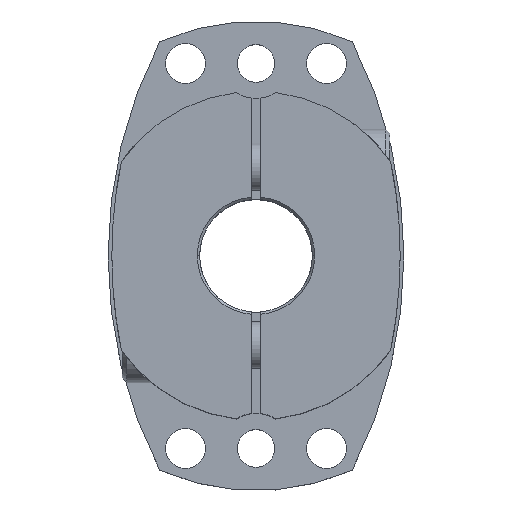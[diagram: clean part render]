
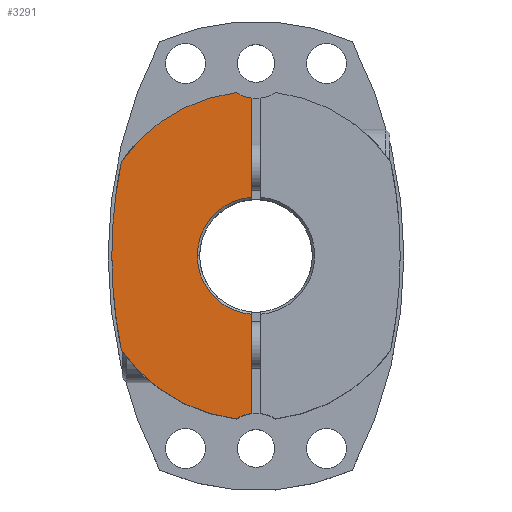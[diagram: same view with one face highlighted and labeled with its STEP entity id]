
A CAD part, top view. The second image highlights one B-rep face of the part: STEP entity #3291.
In plain terms, the highlighted planar face has unit normal (0, 0, 1).
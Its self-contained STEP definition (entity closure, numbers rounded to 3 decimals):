
#227=CARTESIAN_POINT('',(-12.5,0.,31.0));
#228=VERTEX_POINT('',#227);
#244=CARTESIAN_POINT('',(-1.0,12.46,31.0));
#245=VERTEX_POINT('',#244);
#259=CARTESIAN_POINT('',(0.0,0.0,31.0));
#260=DIRECTION('',(0.0,0.0,1.0));
#261=DIRECTION('',(-1.0,0.0,0.0));
#262=AXIS2_PLACEMENT_3D('',#259,#260,#261);
#263=CIRCLE('',#262,12.5);
#264=EDGE_CURVE('',#245,#228,#263,.T.);
#942=CARTESIAN_POINT('',(-30.7,0.,31.0));
#943=VERTEX_POINT('',#942);
#952=CARTESIAN_POINT('',(-28.638,20.121,31.0));
#953=VERTEX_POINT('',#952);
#954=CARTESIAN_POINT('',(68.5,0.,31.0));
#955=DIRECTION('',(0.0,0.0,-1.0));
#956=DIRECTION('',(1.0,0.0,0.0));
#957=AXIS2_PLACEMENT_3D('',#954,#955,#956);
#958=CIRCLE('',#957,99.2);
#959=EDGE_CURVE('',#943,#953,#958,.T.);
#2290=CARTESIAN_POINT('',(-28.638,-20.121,31.0));
#2291=VERTEX_POINT('',#2290);
#2298=CARTESIAN_POINT('',(68.5,0.,31.0));
#2299=DIRECTION('',(0.0,0.0,-1.0));
#2300=DIRECTION('',(1.0,0.0,0.0));
#2301=AXIS2_PLACEMENT_3D('',#2298,#2299,#2300);
#2302=CIRCLE('',#2301,99.2);
#2303=EDGE_CURVE('',#2291,#943,#2302,.T.);
#2593=CARTESIAN_POINT('',(-4.15,34.753,31.0));
#2594=VERTEX_POINT('',#2593);
#2595=CARTESIAN_POINT('',(0.,0.,31.0));
#2596=DIRECTION('',(0.0,0.0,-1.0));
#2597=DIRECTION('',(1.0,0.0,0.0));
#2598=AXIS2_PLACEMENT_3D('',#2595,#2596,#2597);
#2599=CIRCLE('',#2598,35.);
#2600=EDGE_CURVE('',#953,#2594,#2599,.T.);
#2936=CARTESIAN_POINT('',(-1.0,-12.46,31.0));
#2937=VERTEX_POINT('',#2936);
#2938=CARTESIAN_POINT('',(0.0,0.0,31.0));
#2939=DIRECTION('',(0.0,0.0,1.0));
#2940=DIRECTION('',(-1.0,0.0,0.0));
#2941=AXIS2_PLACEMENT_3D('',#2938,#2939,#2940);
#2942=CIRCLE('',#2941,12.5);
#2943=EDGE_CURVE('',#228,#2937,#2942,.T.);
#2968=CARTESIAN_POINT('',(-1.0,-33.567,31.0));
#2969=VERTEX_POINT('',#2968);
#2970=CARTESIAN_POINT('',(-1.0,-33.567,31.0));
#2971=DIRECTION('',(0.0,1.0,0.0));
#2972=VECTOR('',#2971,21.107);
#2973=LINE('',#2970,#2972);
#2974=EDGE_CURVE('',#2969,#2937,#2973,.T.);
#3049=CARTESIAN_POINT('',(-1.0,33.567,31.0));
#3050=VERTEX_POINT('',#3049);
#3057=CARTESIAN_POINT('',(-1.0,12.46,31.0));
#3058=DIRECTION('',(0.0,1.0,0.0));
#3059=VECTOR('',#3058,21.107);
#3060=LINE('',#3057,#3059);
#3061=EDGE_CURVE('',#245,#3050,#3060,.T.);
#3126=CARTESIAN_POINT('',(-4.15,-34.753,31.0));
#3127=VERTEX_POINT('',#3126);
#3128=CARTESIAN_POINT('',(0.,-41.,31.0));
#3129=DIRECTION('',(0.0,0.0,-1.0));
#3130=DIRECTION('',(1.0,0.0,0.0));
#3131=AXIS2_PLACEMENT_3D('',#3128,#3129,#3130);
#3132=CIRCLE('',#3131,7.5);
#3133=EDGE_CURVE('',#3127,#2969,#3132,.T.);
#3262=CARTESIAN_POINT('',(0.,0.,31.0));
#3263=DIRECTION('',(0.0,0.0,1.0));
#3264=DIRECTION('',(1.0,0.0,0.0));
#3265=AXIS2_PLACEMENT_3D('',#3262,#3263,#3264);
#3266=PLANE('',#3265);
#3267=ORIENTED_EDGE('',*,*,#264,.F.);
#3268=ORIENTED_EDGE('',*,*,#3061,.T.);
#3269=CARTESIAN_POINT('',(0.,41.,31.0));
#3270=DIRECTION('',(0.0,0.0,-1.0));
#3271=DIRECTION('',(1.0,0.0,0.0));
#3272=AXIS2_PLACEMENT_3D('',#3269,#3270,#3271);
#3273=CIRCLE('',#3272,7.5);
#3274=EDGE_CURVE('',#3050,#2594,#3273,.T.);
#3275=ORIENTED_EDGE('',*,*,#3274,.T.);
#3276=ORIENTED_EDGE('',*,*,#2600,.F.);
#3277=ORIENTED_EDGE('',*,*,#959,.F.);
#3278=ORIENTED_EDGE('',*,*,#2303,.F.);
#3279=CARTESIAN_POINT('',(0.,0.,31.0));
#3280=DIRECTION('',(0.0,0.0,-1.0));
#3281=DIRECTION('',(1.0,0.0,0.0));
#3282=AXIS2_PLACEMENT_3D('',#3279,#3280,#3281);
#3283=CIRCLE('',#3282,35.);
#3284=EDGE_CURVE('',#3127,#2291,#3283,.T.);
#3285=ORIENTED_EDGE('',*,*,#3284,.F.);
#3286=ORIENTED_EDGE('',*,*,#3133,.T.);
#3287=ORIENTED_EDGE('',*,*,#2974,.T.);
#3288=ORIENTED_EDGE('',*,*,#2943,.F.);
#3289=EDGE_LOOP('',(#3267,#3268,#3275,#3276,#3277,#3278,#3285,#3286,#3287,#3288));
#3290=FACE_OUTER_BOUND('',#3289,.T.);
#3291=ADVANCED_FACE('',(#3290),#3266,.T.);
